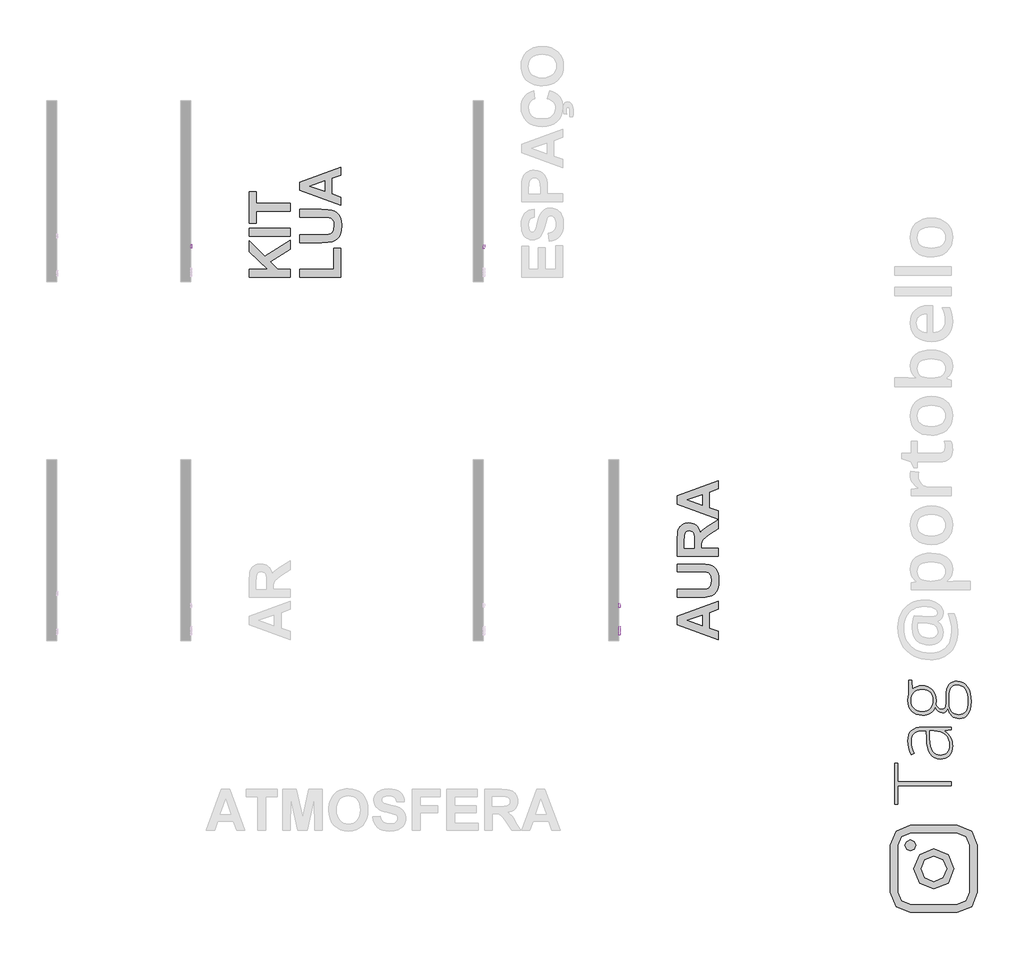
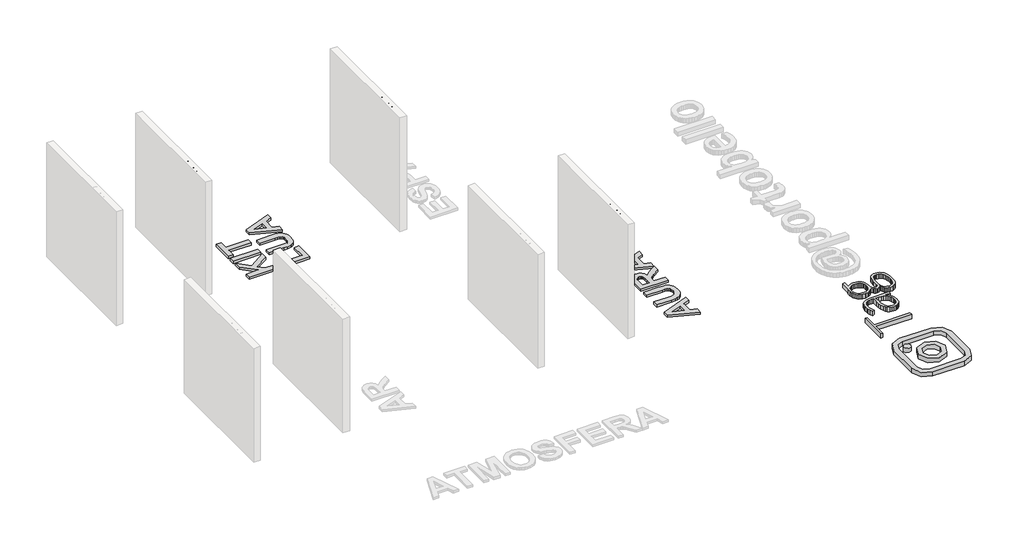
# One storey, part 3 of 9: 8 proxies.
"""IFC4 building model written with IfcOpenShell, lengths in millimetres."""

from ifc_helpers import new_model, si_unit, frame, origin, origin_with_axes, place, context, project, spatial, polyline, outline, extrude, transform, mapped, element, save
from components import generic_models_d67f6705

model = new_model("IFC4")

# Units and contexts
model_context = context("Model", 3, world=origin())
ifc_project = project(units=[si_unit("LENGTHUNIT", "METRE", prefix="MILLI")], contexts=[model_context])

# Site, building, storey
site = spatial("IfcSite", under=ifc_project)
building = spatial("IfcBuilding", under=site)
storey = spatial("IfcBuildingStorey", under=building, Name="PORTOBELLO - SHOWROOM", Elevation=0.0)

# Proxies
placement = place(None, origin())
generic_models_shape = generic_models_d67f6705(model_context)
element("IfcBuildingElementProxy", 1, Name="Blks_Instagram1 : Único 2", ObjectType="Blks_Instagram1 : Único 2", at=placement, inside=storey, context=model_context, shape_type="MappedRepresentation", body=[
    mapped(generic_models_shape, transform((134549.5468687, -13261.2406298, 0.0), x_axis=(-1.0, 0.0, 0.0), y_axis=(0.0, -1.0, 0.0), z_axis=(0.0, 0.0, 1.0))),
])
element("IfcBuildingElementProxy", 2, Name="10mm Arial", ObjectType="10mm Arial", at=placement, inside=storey, context=model_context, shape_type="SweptSolid", body=[
    extrude(outline(polyline([(-9748.5890703, 2548.4925024), (-9775.9840162, 2648.9488126), (-9763.0345699, 2648.9488126), (-9747.1420677, 2582.9262572), (-9742.2369745, 2562.5455946), (-9736.9885247, 2580.5718124), (-9717.073846, 2648.9488126), (-9698.4099661, 2648.9488126), (-9683.939941, 2599.3828451), (-9673.1732612, 2562.5455946), (-9668.4153208, 2582.337646), (-9652.3756658, 2648.9488126), (-9639.4262196, 2648.9488126), (-9666.8456909, 2548.4925024), (-9680.261121, 2548.4925024), (-9704.345129, 2625.9929761), (-9707.7051179, 2636.8087067), (-9711.4820397, 2623.7856841), (-9733.4323321, 2548.4925024), (-9748.5890703, 2548.4925024)])), frame((129846.5708693, 0.0, 0.0), z_axis=(1.0, 0.0, 0.0), x_axis=(0.0, 1.0, 0.0)), (0.0, 0.0, 1.0), 20.0),
    extrude(outline(polyline([(-9628.4388106, 2548.4925024), (-9628.4388106, 2648.9488126), (-9615.8817719, 2648.9488126), (-9615.8817719, 2612.0134603), (-9606.0899794, 2620.8794163), (-9594.0295814, 2623.834735), (-9579.9274382, 2620.6096362), (-9571.3680505, 2611.6946292), (-9568.7928765, 2595.1889903), (-9568.7928765, 2548.4925024), (-9581.3499153, 2548.4925024), (-9581.3499153, 2593.8891406), (-9585.3475663, 2607.1328925), (-9596.6783317, 2611.2776963), (-9606.9667649, 2608.4817931), (-9613.8338954, 2600.903424), (-9615.8817719, 2587.6841976), (-9615.8817719, 2548.4925024), (-9628.4388106, 2548.4925024)])), frame((129846.5708693, 0.0, 0.0), z_axis=(1.0, 0.0, 0.0), x_axis=(0.0, 1.0, 0.0)), (0.0, 0.0, 1.0), 20.0),
    extrude(outline(polyline([(129866.5708693, -9538.9699094), (129866.5708693, -9551.5269482), (129846.5708693, -9551.5269482), (129846.5708693, -9538.9699094), (129866.5708693, -9538.9699094)])), frame((0.0, 0.0, 2636.3917738), z_axis=(0.0, 0.0, 1.0), x_axis=(1.0, 0.0, 0.0)), (0.0, 0.0, 1.0), 12.5570388),
    extrude(outline(polyline([(129866.5708693, -9538.9699094), (129866.5708693, -9551.5269482), (129846.5708693, -9551.5269482), (129846.5708693, -9538.9699094), (129866.5708693, -9538.9699094)])), frame((0.0, 0.0, 2548.4925024), z_axis=(0.0, 0.0, 1.0), x_axis=(1.0, 0.0, 0.0)), (0.0, 0.0, 1.0), 73.7726028),
    extrude(outline(polyline([(-9493.4506439, 2558.9648766), (-9491.881014, 2548.1246204), (-9501.2742676, 2546.9228726), (-9511.7956927, 2549.0075372), (-9517.0441425, 2554.4767162), (-9518.5647214, 2568.7260122), (-9518.5647214, 2609.7080664), (-9527.9825005, 2609.7080664), (-9527.9825005, 2622.2651052), (-9518.5647214, 2622.2651052), (-9518.5647214, 2640.1932211), (-9506.0076826, 2647.5753865), (-9506.0076826, 2622.2651052), (-9493.4506439, 2622.2651052), (-9493.4506439, 2609.7080664), (-9506.0076826, 2609.7080664), (-9506.0076826, 2569.0938942), (-9505.345495, 2562.619171), (-9503.1995167, 2560.3260399), (-9498.9198229, 2559.4799113), (-9493.4506439, 2558.9648766)])), frame((129846.5708693, 0.0, 0.0), z_axis=(1.0, 0.0, 0.0), x_axis=(0.0, 1.0, 0.0)), (0.0, 0.0, 1.0), 20.0),
    extrude(outline(polyline([(-9429.242973, 2570.4673203), (-9416.9311889, 2568.8976904), (-9421.3672326, 2559.6209328), (-9428.4458953, 2552.6863572), (-9438.0077615, 2548.3637437), (-9449.8934156, 2546.9228726), (-9464.6270895, 2549.4091417), (-9475.9639864, 2556.8679492), (-9483.1928676, 2568.814917), (-9485.6024946, 2584.7656671), (-9483.1683421, 2601.2529119), (-9475.8658845, 2613.5830901), (-9464.6822718, 2621.2718238), (-9450.6046542, 2623.834735), (-9436.9654292, 2621.2779552), (-9426.0669251, 2613.6076156), (-9418.9208173, 2601.3019628), (-9416.5387814, 2584.8392435), (-9416.6123578, 2581.4547292), (-9473.0454559, 2581.4547292), (-9470.8718864, 2572.0553442), (-9465.822706, 2565.1452941), (-9458.5355768, 2560.896257), (-9449.648161, 2559.4799113), (-9437.3363769, 2562.1041362), (-9429.242973, 2570.4673203)]), holes=[polyline([(-9473.0454559, 2594.011768), (-9429.0958202, 2594.011768), (-9434.1235408, 2605.3915843), (-9441.4443925, 2609.8061683), (-9450.6537051, 2611.2776963), (-9466.1170116, 2606.5810695), (-9470.982251, 2601.0904307), (-9473.0454559, 2594.011768)])]), frame((129846.5708693, 0.0, 0.0), z_axis=(1.0, 0.0, 0.0), x_axis=(0.0, 1.0, 0.0)), (0.0, 0.0, 1.0), 20.0),
])
element("IfcBuildingElementProxy", 3, Name="10mm Arial Narrow", ObjectType="10mm Arial Narrow", at=placement, inside=storey, context=model_context, shape_type="SweptSolid", body=[
    extrude(outline(polyline([(-9364.431178, 2548.4925024), (-9364.431178, 2649.2111062), (-9333.1342933, 2649.2111062), (-9316.8385918, 2647.3327854), (-9305.3656057, 2637.8523423), (-9301.0759272, 2620.8332334), (-9302.8622356, 2608.7574079), (-9308.2211608, 2599.1310141), (-9317.9649496, 2592.8297557), (-9332.9058489, 2590.7293363), (-9354.6842163, 2590.7293363), (-9354.6842163, 2548.4925024), (-9364.431178, 2548.4925024)]), holes=[polyline([(-9354.6842163, 2602.1007915), (-9331.7128614, 2602.1007915), (-9315.848666, 2606.6316057), (-9310.8228889, 2620.3001965), (-9313.2977034, 2630.4659729), (-9319.2753322, 2636.2659227), (-9331.9413058, 2637.8396509), (-9354.6842163, 2637.8396509), (-9354.6842163, 2602.1007915)])]), frame((129846.5708693, 0.0, 0.0), z_axis=(1.0, 0.0, 0.0), x_axis=(0.0, 1.0, 0.0)), (0.0, 0.0, 1.0), 20.0),
    extrude(outline(polyline([(-9292.9534592, 2585.0436086), (-9290.9989903, 2601.6343842), (-9285.1355837, 2613.586469), (-9276.277017, 2620.8110236), (-9265.3370678, 2623.2192084), (-9254.5240322, 2620.8110236), (-9245.6400828, 2613.586469), (-9239.7005281, 2601.8247545), (-9237.7206765, 2585.80509), (-9239.6656268, 2568.6432034), (-9245.5004779, 2556.5007483), (-9254.3495261, 2549.2761937), (-9265.3370678, 2546.8680088), (-9276.197696, 2549.2825394), (-9285.0721269, 2556.526131), (-9290.9831261, 2568.4845615), (-9292.9534592, 2585.0436086)]), holes=[polyline([(-9283.2064975, 2585.0689913), (-9281.9024607, 2572.5172399), (-9277.9903501, 2563.6459819), (-9272.1491533, 2558.3727233), (-9265.057858, 2556.6149705), (-9258.3377848, 2558.3885875), (-9252.6457115, 2563.7094386), (-9248.7621565, 2572.5965609), (-9247.4676381, 2585.0689913), (-9248.771675, 2597.5826687), (-9252.6837856, 2606.4412354), (-9258.5249823, 2611.7144939), (-9265.6162777, 2613.4722468), (-9272.3839434, 2611.7049754), (-9278.0664982, 2606.4031613), (-9281.9214977, 2597.5350761), (-9283.2064975, 2585.0689913)])]), frame((129846.5708693, 0.0, 0.0), z_axis=(1.0, 0.0, 0.0), x_axis=(0.0, 1.0, 0.0)), (0.0, 0.0, 1.0), 20.0),
    extrude(outline(polyline([(-9166.2429577, 2556.6149705), (-9164.6184641, 2546.8680088), (-9171.9794507, 2546.8680088), (-9180.2542151, 2548.9874653), (-9184.5692762, 2554.7874152), (-9185.736881, 2569.4332403), (-9185.736881, 2611.8477532), (-9193.859349, 2611.8477532), (-9193.859349, 2615.0967404), (-9195.4838426, 2610.2232596), (-9203.047891, 2611.8477532), (-9209.1270507, 2609.525235), (-9212.9979144, 2603.0399519), (-9214.9777659, 2587.6326453), (-9214.9777659, 2548.4925024), (-9224.7247276, 2548.4925024), (-9224.7247276, 2621.5947148), (-9214.9777659, 2621.5947148), (-9214.9777659, 2611.8985186), (-9208.7336186, 2620.9855297), (-9202.3371751, 2623.2192084), (-9193.859349, 2621.5947148), (-9185.736881, 2621.5947148), (-9185.736881, 2637.8396509), (-9175.9899193, 2645.962119), (-9175.9899193, 2621.5947148), (-9166.2429577, 2621.5947148), (-9166.2429577, 2611.8477532), (-9175.9899193, 2611.8477532), (-9175.9899193, 2567.1995616), (-9175.1269071, 2559.2040072), (-9170.5072534, 2556.6149705), (-9166.2429577, 2556.6149705)])), frame((129846.5708693, 0.0, 0.0), z_axis=(1.0, 0.0, 0.0), x_axis=(0.0, 1.0, 0.0)), (0.0, 0.0, 1.0), 20.0),
    extrude(outline(polyline([(-9159.7449832, 2585.0436086), (-9157.7905144, 2601.6343842), (-9151.9271078, 2613.586469), (-9143.068541, 2620.8110236), (-9132.1285919, 2623.2192084), (-9121.3155563, 2620.8110236), (-9112.4316069, 2613.586469), (-9106.4920521, 2601.8247545), (-9104.5122005, 2585.80509), (-9106.4571509, 2568.6432034), (-9112.292002, 2556.5007483), (-9121.1410502, 2549.2761937), (-9132.1285919, 2546.8680088), (-9142.9892201, 2549.2825394), (-9151.863651, 2556.526131), (-9157.7746502, 2568.4845615), (-9159.7449832, 2585.0436086)]), holes=[polyline([(-9149.9980216, 2585.0689913), (-9148.6939847, 2572.5172399), (-9144.7818741, 2563.6459819), (-9138.9406774, 2558.3727233), (-9131.8493821, 2556.6149705), (-9125.1293089, 2558.3885875), (-9119.4372356, 2563.7094386), (-9115.5536805, 2572.5965609), (-9114.2591622, 2585.0689913), (-9115.5631991, 2597.5826687), (-9119.4753096, 2606.4412354), (-9125.3165064, 2611.7144939), (-9132.4078017, 2613.4722468), (-9139.1754675, 2611.7049754), (-9144.8580223, 2606.4031613), (-9148.7130218, 2597.5350761), (-9149.9980216, 2585.0689913)])]), frame((129846.5708693, 0.0, 0.0), z_axis=(1.0, 0.0, 0.0), x_axis=(0.0, 1.0, 0.0)), (0.0, 0.0, 1.0), 20.0),
    extrude(outline(polyline([(-9081.76929, 2548.4925024), (-9091.5162517, 2548.4925024), (-9091.5162517, 2649.2111062), (-9081.76929, 2649.2111062), (-9081.76929, 2613.802222), (-9074.3702293, 2620.8839989), (-9065.168996, 2623.2192084), (-9052.2872693, 2619.0183695), (-9043.0098878, 2606.2889391), (-9039.5324562, 2585.6020283), (-9041.4647152, 2569.1476848), (-9047.2614922, 2556.9449457), (-9055.6346145, 2549.387243), (-9065.2959095, 2546.8680088), (-9074.6367478, 2549.4824282), (-9081.76929, 2557.2495383), (-9081.76929, 2548.4925024)]), holes=[polyline([(-9081.76929, 2585.6020283), (-9079.6879076, 2568.3544751), (-9073.7991182, 2559.6228219), (-9065.3466749, 2556.6149705), (-9059.4039473, 2558.4044517), (-9054.16559, 2563.7728954), (-9049.2794178, 2585.1959049), (-9053.987911, 2606.6316057), (-9059.232614, 2611.7620865), (-9065.5497366, 2613.4722468), (-9071.5273655, 2611.6827655), (-9076.8196611, 2606.3143218), (-9081.76929, 2585.6020283)])]), frame((129846.5708693, 0.0, 0.0), z_axis=(1.0, 0.0, 0.0), x_axis=(0.0, 1.0, 0.0)), (0.0, 0.0, 1.0), 20.0),
    extrude(outline(polyline([(-8987.5486607, 2571.2354129), (-8977.801699, 2569.6109193), (-8981.5012294, 2559.7243528), (-8987.3202163, 2552.6045019), (-8995.0238696, 2548.3021321), (-9004.3773992, 2546.8680088), (-9015.9709532, 2549.2825394), (-9025.1150754, 2556.526131), (-9031.0546302, 2568.3322652), (-9033.0344818, 2584.4344235), (-9031.0451116, 2601.1013472), (-9025.0770013, 2613.2818764), (-9016.0629655, 2620.7348754), (-9004.9358189, 2623.2192084), (-8994.2528697, 2620.8205421), (-8985.5053523, 2613.6245431), (-8979.6705013, 2601.8850385), (-8977.7255509, 2585.8558554), (-8977.801699, 2582.6068682), (-9023.2875201, 2582.6068682), (-9017.2845086, 2563.1637103), (-9011.3544723, 2558.2521554), (-9004.2504856, 2556.6149705), (-8994.0720178, 2560.2700811), (-8987.5486607, 2571.2354129)]), holes=[polyline([(-9022.6275696, 2592.3538299), (-8987.5486607, 2592.3538299), (-8991.8129564, 2606.6189144), (-8997.638289, 2611.7589137), (-9004.8596707, 2613.4722468), (-9017.0687555, 2607.7611364), (-9022.6275696, 2592.3538299)])]), frame((129846.5708693, 0.0, 0.0), z_axis=(1.0, 0.0, 0.0), x_axis=(0.0, 1.0, 0.0)), (0.0, 0.0, 1.0), 20.0),
    extrude(outline(polyline([(129866.5708693, -8955.0587885), (129866.5708693, -8964.8057502), (129846.5708693, -8964.8057502), (129846.5708693, -8955.0587885), (129866.5708693, -8955.0587885)])), frame((0.0, 0.0, 2548.4925024), z_axis=(0.0, 0.0, 1.0), x_axis=(1.0, 0.0, 0.0)), (0.0, 0.0, 1.0), 100.7186038),
    extrude(outline(polyline([(129866.5708693, -8929.0668908), (129866.5708693, -8938.8138524), (129846.5708693, -8938.8138524), (129846.5708693, -8929.0668908), (129866.5708693, -8929.0668908)])), frame((0.0, 0.0, 2548.4925024), z_axis=(0.0, 0.0, 1.0), x_axis=(1.0, 0.0, 0.0)), (0.0, 0.0, 1.0), 100.7186038),
    extrude(outline(polyline([(-8917.6954355, 2585.0436086), (-8915.7409666, 2601.6343842), (-8909.87756, 2613.586469), (-8901.0189933, 2620.8110236), (-8890.0790442, 2623.2192084), (-8879.2660086, 2620.8110236), (-8870.3820592, 2613.586469), (-8864.4425044, 2601.8247545), (-8862.4626528, 2585.80509), (-8864.4076032, 2568.6432034), (-8870.2424542, 2556.5007483), (-8879.0915024, 2549.2761937), (-8890.0790442, 2546.8680088), (-8900.9396723, 2549.2825394), (-8909.8141032, 2556.526131), (-8915.7251024, 2568.4845615), (-8917.6954355, 2585.0436086)]), holes=[polyline([(-8907.9484739, 2585.0689913), (-8906.644437, 2572.5172399), (-8902.7323264, 2563.6459819), (-8896.8911297, 2558.3727233), (-8889.7998343, 2556.6149705), (-8883.0797612, 2558.3885875), (-8877.3876878, 2563.7094386), (-8873.5041328, 2572.5965609), (-8872.2096145, 2585.0689913), (-8873.5136513, 2597.5826687), (-8877.4257619, 2606.4412354), (-8883.2669587, 2611.7144939), (-8890.358254, 2613.4722468), (-8897.1259198, 2611.7049754), (-8902.8084746, 2606.4031613), (-8906.663474, 2597.5350761), (-8907.9484739, 2585.0689913)])]), frame((129846.5708693, 0.0, 0.0), z_axis=(1.0, 0.0, 0.0), x_axis=(0.0, 1.0, 0.0)), (0.0, 0.0, 1.0), 20.0),
])
element("IfcBuildingElementProxy", 4, Name="10mm Arial Narrow", ObjectType="10mm Arial Narrow", at=placement, inside=storey, context=model_context, shape_type="SweptSolid", body=[
    extrude(outline(polyline([(-4009.431178, 2548.4925024), (-4009.431178, 2649.2111062), (-3978.1342933, 2649.2111062), (-3961.8385918, 2647.3327854), (-3950.3656057, 2637.8523423), (-3946.0759272, 2620.8332334), (-3947.8622356, 2608.7574079), (-3953.2211608, 2599.1310141), (-3962.9649496, 2592.8297557), (-3977.9058489, 2590.7293363), (-3999.6842163, 2590.7293363), (-3999.6842163, 2548.4925024), (-4009.431178, 2548.4925024)]), holes=[polyline([(-3999.6842163, 2602.1007915), (-3976.7128614, 2602.1007915), (-3960.848666, 2606.6316057), (-3955.8228889, 2620.3001965), (-3958.2977034, 2630.4659729), (-3964.2753322, 2636.2659227), (-3976.9413058, 2637.8396509), (-3999.6842163, 2637.8396509), (-3999.6842163, 2602.1007915)])]), frame((127826.5708693, 0.0, 0.0), z_axis=(1.0, 0.0, 0.0), x_axis=(0.0, 1.0, 0.0)), (0.0, 0.0, 1.0), 20.0),
    extrude(outline(polyline([(-3937.9534592, 2585.0436086), (-3935.9989903, 2601.6343842), (-3930.1355837, 2613.586469), (-3921.277017, 2620.8110236), (-3910.3370678, 2623.2192084), (-3899.5240322, 2620.8110236), (-3890.6400828, 2613.586469), (-3884.7005281, 2601.8247545), (-3882.7206765, 2585.80509), (-3884.6656268, 2568.6432034), (-3890.5004779, 2556.5007483), (-3899.3495261, 2549.2761937), (-3910.3370678, 2546.8680088), (-3921.197696, 2549.2825394), (-3930.0721269, 2556.526131), (-3935.9831261, 2568.4845615), (-3937.9534592, 2585.0436086)]), holes=[polyline([(-3928.2064975, 2585.0689913), (-3926.9024607, 2572.5172399), (-3922.9903501, 2563.6459819), (-3917.1491533, 2558.3727233), (-3910.057858, 2556.6149705), (-3903.3377848, 2558.3885875), (-3897.6457115, 2563.7094386), (-3893.7621565, 2572.5965609), (-3892.4676381, 2585.0689913), (-3893.771675, 2597.5826687), (-3897.6837856, 2606.4412354), (-3903.5249823, 2611.7144939), (-3910.6162777, 2613.4722468), (-3917.3839434, 2611.7049754), (-3923.0664982, 2606.4031613), (-3926.9214977, 2597.5350761), (-3928.2064975, 2585.0689913)])]), frame((127826.5708693, 0.0, 0.0), z_axis=(1.0, 0.0, 0.0), x_axis=(0.0, 1.0, 0.0)), (0.0, 0.0, 1.0), 20.0),
    extrude(outline(polyline([(-3811.2429577, 2556.6149705), (-3809.6184641, 2546.8680088), (-3816.9794507, 2546.8680088), (-3825.2542151, 2548.9874653), (-3829.5692762, 2554.7874152), (-3830.736881, 2569.4332403), (-3830.736881, 2611.8477532), (-3838.859349, 2611.8477532), (-3838.859349, 2615.0967404), (-3840.4838426, 2610.2232596), (-3848.047891, 2611.8477532), (-3854.1270507, 2609.525235), (-3857.9979144, 2603.0399519), (-3859.9777659, 2587.6326453), (-3859.9777659, 2548.4925024), (-3869.7247276, 2548.4925024), (-3869.7247276, 2621.5947148), (-3859.9777659, 2621.5947148), (-3859.9777659, 2611.8985186), (-3853.7336186, 2620.9855297), (-3847.3371751, 2623.2192084), (-3838.859349, 2621.5947148), (-3830.736881, 2621.5947148), (-3830.736881, 2637.8396509), (-3820.9899193, 2645.962119), (-3820.9899193, 2621.5947148), (-3811.2429577, 2621.5947148), (-3811.2429577, 2611.8477532), (-3820.9899193, 2611.8477532), (-3820.9899193, 2567.1995616), (-3820.1269071, 2559.2040072), (-3815.5072534, 2556.6149705), (-3811.2429577, 2556.6149705)])), frame((127826.5708693, 0.0, 0.0), z_axis=(1.0, 0.0, 0.0), x_axis=(0.0, 1.0, 0.0)), (0.0, 0.0, 1.0), 20.0),
    extrude(outline(polyline([(-3804.7449832, 2585.0436086), (-3802.7905144, 2601.6343842), (-3796.9271078, 2613.586469), (-3788.068541, 2620.8110236), (-3777.1285919, 2623.2192084), (-3766.3155563, 2620.8110236), (-3757.4316069, 2613.586469), (-3751.4920521, 2601.8247545), (-3749.5122005, 2585.80509), (-3751.4571509, 2568.6432034), (-3757.292002, 2556.5007483), (-3766.1410502, 2549.2761937), (-3777.1285919, 2546.8680088), (-3787.9892201, 2549.2825394), (-3796.863651, 2556.526131), (-3802.7746502, 2568.4845615), (-3804.7449832, 2585.0436086)]), holes=[polyline([(-3794.9980216, 2585.0689913), (-3793.6939847, 2572.5172399), (-3789.7818741, 2563.6459819), (-3783.9406774, 2558.3727233), (-3776.8493821, 2556.6149705), (-3770.1293089, 2558.3885875), (-3764.4372356, 2563.7094386), (-3760.5536805, 2572.5965609), (-3759.2591622, 2585.0689913), (-3760.5631991, 2597.5826687), (-3764.4753096, 2606.4412354), (-3770.3165064, 2611.7144939), (-3777.4078017, 2613.4722468), (-3784.1754675, 2611.7049754), (-3789.8580223, 2606.4031613), (-3793.7130218, 2597.5350761), (-3794.9980216, 2585.0689913)])]), frame((127826.5708693, 0.0, 0.0), z_axis=(1.0, 0.0, 0.0), x_axis=(0.0, 1.0, 0.0)), (0.0, 0.0, 1.0), 20.0),
    extrude(outline(polyline([(-3726.76929, 2548.4925024), (-3736.5162517, 2548.4925024), (-3736.5162517, 2649.2111062), (-3726.76929, 2649.2111062), (-3726.76929, 2613.802222), (-3719.3702293, 2620.8839989), (-3710.168996, 2623.2192084), (-3697.2872693, 2619.0183695), (-3688.0098878, 2606.2889391), (-3684.5324562, 2585.6020283), (-3686.4647152, 2569.1476848), (-3692.2614922, 2556.9449457), (-3700.6346145, 2549.387243), (-3710.2959095, 2546.8680088), (-3719.6367478, 2549.4824282), (-3726.76929, 2557.2495383), (-3726.76929, 2548.4925024)]), holes=[polyline([(-3726.76929, 2585.6020283), (-3724.6879076, 2568.3544751), (-3718.7991182, 2559.6228219), (-3710.3466749, 2556.6149705), (-3704.4039473, 2558.4044517), (-3699.16559, 2563.7728954), (-3694.2794178, 2585.1959049), (-3698.987911, 2606.6316057), (-3704.232614, 2611.7620865), (-3710.5497366, 2613.4722468), (-3716.5273655, 2611.6827655), (-3721.8196611, 2606.3143218), (-3726.76929, 2585.6020283)])]), frame((127826.5708693, 0.0, 0.0), z_axis=(1.0, 0.0, 0.0), x_axis=(0.0, 1.0, 0.0)), (0.0, 0.0, 1.0), 20.0),
    extrude(outline(polyline([(-3632.5486607, 2571.2354129), (-3622.801699, 2569.6109193), (-3626.5012294, 2559.7243528), (-3632.3202163, 2552.6045019), (-3640.0238696, 2548.3021321), (-3649.3773992, 2546.8680088), (-3660.9709532, 2549.2825394), (-3670.1150754, 2556.526131), (-3676.0546302, 2568.3322652), (-3678.0344818, 2584.4344235), (-3676.0451116, 2601.1013472), (-3670.0770013, 2613.2818764), (-3661.0629655, 2620.7348754), (-3649.9358189, 2623.2192084), (-3639.2528697, 2620.8205421), (-3630.5053523, 2613.6245431), (-3624.6705013, 2601.8850385), (-3622.7255509, 2585.8558554), (-3622.801699, 2582.6068682), (-3668.2875201, 2582.6068682), (-3662.2845086, 2563.1637103), (-3656.3544723, 2558.2521554), (-3649.2504856, 2556.6149705), (-3639.0720178, 2560.2700811), (-3632.5486607, 2571.2354129)]), holes=[polyline([(-3667.6275696, 2592.3538299), (-3632.5486607, 2592.3538299), (-3636.8129564, 2606.6189144), (-3642.638289, 2611.7589137), (-3649.8596707, 2613.4722468), (-3662.0687555, 2607.7611364), (-3667.6275696, 2592.3538299)])]), frame((127826.5708693, 0.0, 0.0), z_axis=(1.0, 0.0, 0.0), x_axis=(0.0, 1.0, 0.0)), (0.0, 0.0, 1.0), 20.0),
    extrude(outline(polyline([(127846.5708693, -3600.0587885), (127846.5708693, -3609.8057502), (127826.5708693, -3609.8057502), (127826.5708693, -3600.0587885), (127846.5708693, -3600.0587885)])), frame((0.0, 0.0, 2548.4925024), z_axis=(0.0, 0.0, 1.0), x_axis=(1.0, 0.0, 0.0)), (0.0, 0.0, 1.0), 100.7186038),
    extrude(outline(polyline([(127846.5708693, -3574.0668908), (127846.5708693, -3583.8138524), (127826.5708693, -3583.8138524), (127826.5708693, -3574.0668908), (127846.5708693, -3574.0668908)])), frame((0.0, 0.0, 2548.4925024), z_axis=(0.0, 0.0, 1.0), x_axis=(1.0, 0.0, 0.0)), (0.0, 0.0, 1.0), 100.7186038),
    extrude(outline(polyline([(-3562.6954355, 2585.0436086), (-3560.7409666, 2601.6343842), (-3554.87756, 2613.586469), (-3546.0189933, 2620.8110236), (-3535.0790442, 2623.2192084), (-3524.2660086, 2620.8110236), (-3515.3820592, 2613.586469), (-3509.4425044, 2601.8247545), (-3507.4626528, 2585.80509), (-3509.4076032, 2568.6432034), (-3515.2424542, 2556.5007483), (-3524.0915024, 2549.2761937), (-3535.0790442, 2546.8680088), (-3545.9396723, 2549.2825394), (-3554.8141032, 2556.526131), (-3560.7251024, 2568.4845615), (-3562.6954355, 2585.0436086)]), holes=[polyline([(-3552.9484739, 2585.0689913), (-3551.644437, 2572.5172399), (-3547.7323264, 2563.6459819), (-3541.8911297, 2558.3727233), (-3534.7998343, 2556.6149705), (-3528.0797612, 2558.3885875), (-3522.3876878, 2563.7094386), (-3518.5041328, 2572.5965609), (-3517.2096145, 2585.0689913), (-3518.5136513, 2597.5826687), (-3522.4257619, 2606.4412354), (-3528.2669587, 2611.7144939), (-3535.358254, 2613.4722468), (-3542.1259198, 2611.7049754), (-3547.8084746, 2606.4031613), (-3551.663474, 2597.5350761), (-3552.9484739, 2585.0689913)])]), frame((127826.5708693, 0.0, 0.0), z_axis=(1.0, 0.0, 0.0), x_axis=(0.0, 1.0, 0.0)), (0.0, 0.0, 1.0), 20.0),
])
element("IfcBuildingElementProxy", 5, Name="10mm Arial Narrow", ObjectType="10mm Arial Narrow", at=placement, inside=storey, context=model_context, shape_type="SweptSolid", body=[
    extrude(outline(polyline([(-4004.431178, 2548.4925024), (-4004.431178, 2649.2111062), (-3973.1342933, 2649.2111062), (-3956.8385918, 2647.3327854), (-3945.3656057, 2637.8523423), (-3941.0759272, 2620.8332334), (-3942.8622356, 2608.7574079), (-3948.2211608, 2599.1310141), (-3957.9649496, 2592.8297557), (-3972.9058489, 2590.7293363), (-3994.6842163, 2590.7293363), (-3994.6842163, 2548.4925024), (-4004.431178, 2548.4925024)]), holes=[polyline([(-3994.6842163, 2602.1007915), (-3971.7128614, 2602.1007915), (-3955.848666, 2606.6316057), (-3950.8228889, 2620.3001965), (-3953.2977034, 2630.4659729), (-3959.2753322, 2636.2659227), (-3971.9413058, 2637.8396509), (-3994.6842163, 2637.8396509), (-3994.6842163, 2602.1007915)])]), frame((123459.5859035, 0.0, 0.0), z_axis=(1.0, 0.0, 0.0), x_axis=(0.0, 1.0, 0.0)), (0.0, 0.0, 1.0), 20.0),
    extrude(outline(polyline([(-3932.9534592, 2585.0436086), (-3930.9989903, 2601.6343842), (-3925.1355837, 2613.586469), (-3916.277017, 2620.8110236), (-3905.3370678, 2623.2192084), (-3894.5240322, 2620.8110236), (-3885.6400828, 2613.586469), (-3879.7005281, 2601.8247545), (-3877.7206765, 2585.80509), (-3879.6656268, 2568.6432034), (-3885.5004779, 2556.5007483), (-3894.3495261, 2549.2761937), (-3905.3370678, 2546.8680088), (-3916.197696, 2549.2825394), (-3925.0721269, 2556.526131), (-3930.9831261, 2568.4845615), (-3932.9534592, 2585.0436086)]), holes=[polyline([(-3923.2064975, 2585.0689913), (-3921.9024607, 2572.5172399), (-3917.9903501, 2563.6459819), (-3912.1491533, 2558.3727233), (-3905.057858, 2556.6149705), (-3898.3377848, 2558.3885875), (-3892.6457115, 2563.7094386), (-3888.7621565, 2572.5965609), (-3887.4676381, 2585.0689913), (-3888.771675, 2597.5826687), (-3892.6837856, 2606.4412354), (-3898.5249823, 2611.7144939), (-3905.6162777, 2613.4722468), (-3912.3839434, 2611.7049754), (-3918.0664982, 2606.4031613), (-3921.9214977, 2597.5350761), (-3923.2064975, 2585.0689913)])]), frame((123459.5859035, 0.0, 0.0), z_axis=(1.0, 0.0, 0.0), x_axis=(0.0, 1.0, 0.0)), (0.0, 0.0, 1.0), 20.0),
    extrude(outline(polyline([(-3806.2429577, 2556.6149705), (-3804.6184641, 2546.8680088), (-3811.9794507, 2546.8680088), (-3820.2542151, 2548.9874653), (-3824.5692762, 2554.7874152), (-3825.736881, 2569.4332403), (-3825.736881, 2611.8477532), (-3833.859349, 2611.8477532), (-3833.859349, 2615.0967404), (-3835.4838426, 2610.2232596), (-3843.047891, 2611.8477532), (-3849.1270507, 2609.525235), (-3852.9979144, 2603.0399519), (-3854.9777659, 2587.6326453), (-3854.9777659, 2548.4925024), (-3864.7247276, 2548.4925024), (-3864.7247276, 2621.5947148), (-3854.9777659, 2621.5947148), (-3854.9777659, 2611.8985186), (-3848.7336186, 2620.9855297), (-3842.3371751, 2623.2192084), (-3833.859349, 2621.5947148), (-3825.736881, 2621.5947148), (-3825.736881, 2637.8396509), (-3815.9899193, 2645.962119), (-3815.9899193, 2621.5947148), (-3806.2429577, 2621.5947148), (-3806.2429577, 2611.8477532), (-3815.9899193, 2611.8477532), (-3815.9899193, 2567.1995616), (-3815.1269071, 2559.2040072), (-3810.5072534, 2556.6149705), (-3806.2429577, 2556.6149705)])), frame((123459.5859035, 0.0, 0.0), z_axis=(1.0, 0.0, 0.0), x_axis=(0.0, 1.0, 0.0)), (0.0, 0.0, 1.0), 20.0),
    extrude(outline(polyline([(-3799.7449832, 2585.0436086), (-3797.7905144, 2601.6343842), (-3791.9271078, 2613.586469), (-3783.068541, 2620.8110236), (-3772.1285919, 2623.2192084), (-3761.3155563, 2620.8110236), (-3752.4316069, 2613.586469), (-3746.4920521, 2601.8247545), (-3744.5122005, 2585.80509), (-3746.4571509, 2568.6432034), (-3752.292002, 2556.5007483), (-3761.1410502, 2549.2761937), (-3772.1285919, 2546.8680088), (-3782.9892201, 2549.2825394), (-3791.863651, 2556.526131), (-3797.7746502, 2568.4845615), (-3799.7449832, 2585.0436086)]), holes=[polyline([(-3789.9980216, 2585.0689913), (-3788.6939847, 2572.5172399), (-3784.7818741, 2563.6459819), (-3778.9406774, 2558.3727233), (-3771.8493821, 2556.6149705), (-3765.1293089, 2558.3885875), (-3759.4372356, 2563.7094386), (-3755.5536805, 2572.5965609), (-3754.2591622, 2585.0689913), (-3755.5631991, 2597.5826687), (-3759.4753096, 2606.4412354), (-3765.3165064, 2611.7144939), (-3772.4078017, 2613.4722468), (-3779.1754675, 2611.7049754), (-3784.8580223, 2606.4031613), (-3788.7130218, 2597.5350761), (-3789.9980216, 2585.0689913)])]), frame((123459.5859035, 0.0, 0.0), z_axis=(1.0, 0.0, 0.0), x_axis=(0.0, 1.0, 0.0)), (0.0, 0.0, 1.0), 20.0),
    extrude(outline(polyline([(-3721.76929, 2548.4925024), (-3731.5162517, 2548.4925024), (-3731.5162517, 2649.2111062), (-3721.76929, 2649.2111062), (-3721.76929, 2613.802222), (-3714.3702293, 2620.8839989), (-3705.168996, 2623.2192084), (-3692.2872693, 2619.0183695), (-3683.0098878, 2606.2889391), (-3679.5324562, 2585.6020283), (-3681.4647152, 2569.1476848), (-3687.2614922, 2556.9449457), (-3695.6346145, 2549.387243), (-3705.2959095, 2546.8680088), (-3714.6367478, 2549.4824282), (-3721.76929, 2557.2495383), (-3721.76929, 2548.4925024)]), holes=[polyline([(-3721.76929, 2585.6020283), (-3719.6879076, 2568.3544751), (-3713.7991182, 2559.6228219), (-3705.3466749, 2556.6149705), (-3699.4039473, 2558.4044517), (-3694.16559, 2563.7728954), (-3689.2794178, 2585.1959049), (-3693.987911, 2606.6316057), (-3699.232614, 2611.7620865), (-3705.5497366, 2613.4722468), (-3711.5273655, 2611.6827655), (-3716.8196611, 2606.3143218), (-3721.76929, 2585.6020283)])]), frame((123459.5859035, 0.0, 0.0), z_axis=(1.0, 0.0, 0.0), x_axis=(0.0, 1.0, 0.0)), (0.0, 0.0, 1.0), 20.0),
    extrude(outline(polyline([(-3627.5486607, 2571.2354129), (-3617.801699, 2569.6109193), (-3621.5012294, 2559.7243528), (-3627.3202163, 2552.6045019), (-3635.0238696, 2548.3021321), (-3644.3773992, 2546.8680088), (-3655.9709532, 2549.2825394), (-3665.1150754, 2556.526131), (-3671.0546302, 2568.3322652), (-3673.0344818, 2584.4344235), (-3671.0451116, 2601.1013472), (-3665.0770013, 2613.2818764), (-3656.0629655, 2620.7348754), (-3644.9358189, 2623.2192084), (-3634.2528697, 2620.8205421), (-3625.5053523, 2613.6245431), (-3619.6705013, 2601.8850385), (-3617.7255509, 2585.8558554), (-3617.801699, 2582.6068682), (-3663.2875201, 2582.6068682), (-3657.2845086, 2563.1637103), (-3651.3544723, 2558.2521554), (-3644.2504856, 2556.6149705), (-3634.0720178, 2560.2700811), (-3627.5486607, 2571.2354129)]), holes=[polyline([(-3662.6275696, 2592.3538299), (-3627.5486607, 2592.3538299), (-3631.8129564, 2606.6189144), (-3637.638289, 2611.7589137), (-3644.8596707, 2613.4722468), (-3657.0687555, 2607.7611364), (-3662.6275696, 2592.3538299)])]), frame((123459.5859035, 0.0, 0.0), z_axis=(1.0, 0.0, 0.0), x_axis=(0.0, 1.0, 0.0)), (0.0, 0.0, 1.0), 20.0),
    extrude(outline(polyline([(123479.5859035, -3595.0587885), (123479.5859035, -3604.8057502), (123459.5859035, -3604.8057502), (123459.5859035, -3595.0587885), (123479.5859035, -3595.0587885)])), frame((0.0, 0.0, 2548.4925024), z_axis=(0.0, 0.0, 1.0), x_axis=(1.0, 0.0, 0.0)), (0.0, 0.0, 1.0), 100.7186038),
    extrude(outline(polyline([(123479.5859035, -3569.0668908), (123479.5859035, -3578.8138524), (123459.5859035, -3578.8138524), (123459.5859035, -3569.0668908), (123479.5859035, -3569.0668908)])), frame((0.0, 0.0, 2548.4925024), z_axis=(0.0, 0.0, 1.0), x_axis=(1.0, 0.0, 0.0)), (0.0, 0.0, 1.0), 100.7186038),
    extrude(outline(polyline([(-3557.6954355, 2585.0436086), (-3555.7409666, 2601.6343842), (-3549.87756, 2613.586469), (-3541.0189933, 2620.8110236), (-3530.0790442, 2623.2192084), (-3519.2660086, 2620.8110236), (-3510.3820592, 2613.586469), (-3504.4425044, 2601.8247545), (-3502.4626528, 2585.80509), (-3504.4076032, 2568.6432034), (-3510.2424542, 2556.5007483), (-3519.0915024, 2549.2761937), (-3530.0790442, 2546.8680088), (-3540.9396723, 2549.2825394), (-3549.8141032, 2556.526131), (-3555.7251024, 2568.4845615), (-3557.6954355, 2585.0436086)]), holes=[polyline([(-3547.9484739, 2585.0689913), (-3546.644437, 2572.5172399), (-3542.7323264, 2563.6459819), (-3536.8911297, 2558.3727233), (-3529.7998343, 2556.6149705), (-3523.0797612, 2558.3885875), (-3517.3876878, 2563.7094386), (-3513.5041328, 2572.5965609), (-3512.2096145, 2585.0689913), (-3513.5136513, 2597.5826687), (-3517.4257619, 2606.4412354), (-3523.2669587, 2611.7144939), (-3530.358254, 2613.4722468), (-3537.1259198, 2611.7049754), (-3542.8084746, 2606.4031613), (-3546.663474, 2597.5350761), (-3547.9484739, 2585.0689913)])]), frame((123459.5859035, 0.0, 0.0), z_axis=(1.0, 0.0, 0.0), x_axis=(0.0, 1.0, 0.0)), (0.0, 0.0, 1.0), 20.0),
])
element("IfcBuildingElementProxy", 6, Name="600mm Arial", ObjectType="600mm Arial", at=placement, inside=storey, context=model_context, shape_type="SweptSolid", body=[
    extrude(outline(polyline([(131332.9424461, -9266.5979954), (131332.9424461, -9389.1202179), (131196.9078595, -9437.0967016), (131196.9078595, -9668.3251341), (131332.9424461, -9715.6943205), (131332.9424461, -9839.8866106), (130720.7868062, -9616.4012182), (130720.7868062, -9492.2089281), (131332.9424461, -9266.5979954)]), holes=[polyline([(131090.0235414, -9474.4454832), (130866.538149, -9553.242303), (131090.0235414, -9630.9763525), (131090.0235414, -9474.4454832)])]), origin_with_axes(), (0.0, 0.0, 1.0), 50.0),
    extrude(outline(polyline([(130720.7868062, -9208.2974582), (130720.7868062, -9091.6963839), (131051.0046923, -9091.6963839), (131115.833675, -9090.4438333), (131153.0306323, -9086.6861815), (131170.7893327, -9080.8694124), (131186.7166523, -9072.0730912), (131200.8125911, -9060.2972177), (131213.0771491, -9045.541792), (131223.0074082, -9027.8068142), (131230.1004504, -9007.0922841), (131235.7748842, -8956.7245675), (131230.4230771, -8906.4137849), (131223.7333182, -8886.5675002), (131214.3676558, -8870.2606198), (131190.5122602, -8846.9745654), (131161.7605304, -8835.2651151), (131120.2555582, -8830.8242539), (131058.1404351, -8829.3439668), (130720.7868062, -8829.3439668), (130720.7868062, -8712.7428925), (131041.8952334, -8712.7428925), (131135.9124407, -8715.2859498), (131197.5151567, -8722.9151217), (131239.3996898, -8737.3763877), (131274.2623482, -8760.4157276), (131302.4067807, -8792.3557679), (131324.1366358, -8833.5191355), (131338.0285607, -8886.2970631), (131342.6592023, -8953.0807839), (131337.6110438, -9031.3082625), (131331.3008457, -9062.365824), (131322.4665684, -9088.0526004), (131299.2374481, -9129.2349459), (131269.9353552, -9160.7764475), (131236.7996984, -9182.9427975), (131202.0698862, -9195.9996887), (131137.013167, -9205.2230158), (131046.9054358, -9208.2974582), (130720.7868062, -9208.2974582)])), origin_with_axes(), (0.0, 0.0, 1.0), 50.0),
    extrude(outline(polyline([(131332.9424461, -8596.1418182), (130720.7868062, -8596.1418182), (130720.7868062, -8338.6477792), (130724.9240188, -8254.7648449), (130730.0955345, -8222.7868485), (130737.3356566, -8197.4511658), (130747.2232151, -8176.5373664), (130760.3370403, -8157.8250195), (130776.6771323, -8141.3141252), (130796.243491, -8127.0046834), (130818.1915936, -8115.4470574), (130841.6769174, -8107.1916103), (130866.6994623, -8102.238342), (130893.2592285, -8100.5872525), (130926.3664183, -8102.973741), (130956.4560999, -8110.1332064), (130983.5282731, -8122.0656487), (131007.5829381, -8138.7710679), (131028.0412646, -8160.230486), (131044.3244224, -8186.4249249), (131056.4324116, -8217.3543847), (131064.3652321, -8253.0188653), (131088.7330347, -8219.199999), (131115.3782021, -8191.8336661), (131153.9795343, -8163.5184313), (131214.2158314, -8126.8528591), (131332.9424461, -8052.0034716), (131332.9424461, -8188.1898826), (131193.1122516, -8276.8552828), (131139.423378, -8319.6887178), (131110.1402632, -8346.4667314), (131095.7359313, -8365.7863756), (131086.6834064, -8386.2447021), (131081.9009405, -8413.4022765), (131080.3067852, -8452.8196644), (131080.3067852, -8479.540744), (131332.9424461, -8479.540744), (131332.9424461, -8596.1418182)]), holes=[polyline([(130973.4224671, -8479.540744), (130973.4224671, -8383.4359523), (130971.6575094, -8307.5807287), (130966.3626364, -8266.7589658), (130956.7597485, -8245.9969907), (130942.070746, -8230.3211301), (130922.6941677, -8220.4715276), (130899.0285525, -8217.1883268), (130872.8198801, -8221.5153198), (130852.1907512, -8234.4962988), (130837.634595, -8255.3721422), (130829.6448404, -8283.3837284), (130827.6711243, -8378.1221012), (130827.6711243, -8479.540744), (130973.4224671, -8479.540744)])]), origin_with_axes(), (0.0, 0.0, 1.0), 50.0),
    extrude(outline(polyline([(131332.9424461, -7468.9981002), (131332.9424461, -7591.5203228), (131196.9078595, -7639.4968065), (131196.9078595, -7870.7252389), (131332.9424461, -7918.0944254), (131332.9424461, -8042.2867154), (130720.7868062, -7818.801323), (130720.7868062, -7694.609033), (131332.9424461, -7468.9981002)]), holes=[polyline([(131090.0235414, -7676.8455881), (130866.538149, -7755.6424078), (131090.0235414, -7833.3764573), (131090.0235414, -7676.8455881)])]), origin_with_axes(), (0.0, 0.0, 1.0), 50.0),
])
element("IfcBuildingElementProxy", 7, Name="600mm Arial", ObjectType="600mm Arial", at=placement, inside=storey, context=model_context, shape_type="SweptSolid", body=[
    extrude(outline(polyline([(124945.9574804, -4431.5860734), (124333.8018404, -4431.5860734), (124333.8018404, -4314.9849991), (124612.8549322, -4314.9849991), (124333.8018404, -4052.3289334), (124333.8018404, -3892.3061049), (124567.6112862, -4123.9900103), (124945.9574804, -3882.5893487), (124945.9574804, -4018.927584), (124644.2825655, -4199.7503437), (124760.7318155, -4314.9849991), (124945.9574804, -4314.9849991), (124945.9574804, -4431.5860734)])), origin_with_axes(), (0.0, 0.0, 1.0), 50.0),
    extrude(outline(polyline([(124945.9574804, -3819.4304335), (124333.8018404, -3819.4304335), (124333.8018404, -3702.8293592), (124945.9574804, -3702.8293592), (124945.9574804, -3819.4304335)])), origin_with_axes(), (0.0, 0.0, 1.0), 50.0),
    extrude(outline(polyline([(124945.9574804, -3450.1936982), (124440.6861585, -3450.1936982), (124440.6861585, -3625.0953097), (124333.8018404, -3625.0953097), (124333.8018404, -3158.6910125), (124440.6861585, -3158.6910125), (124440.6861585, -3333.592624), (124945.9574804, -3333.592624), (124945.9574804, -3450.1936982)])), origin_with_axes(), (0.0, 0.0, 1.0), 50.0),
    extrude(outline(polyline([(125701.4255794, -4431.5860734), (125089.2699394, -4431.5860734), (125089.2699394, -4314.9849991), (125594.5412613, -4314.9849991), (125594.5412613, -4004.0488011), (125701.4255794, -4004.0488011), (125701.4255794, -4431.5860734)])), origin_with_axes(), (0.0, 0.0, 1.0), 50.0),
    extrude(outline(polyline([(125089.2699394, -3916.5979954), (125089.2699394, -3799.9969211), (125419.4878256, -3799.9969211), (125484.3168083, -3798.7443705), (125521.5137656, -3794.9867187), (125539.272466, -3789.1699496), (125555.1997856, -3780.3736283), (125569.2957244, -3768.5977548), (125581.5602824, -3753.8423292), (125591.4905415, -3736.1073513), (125598.5835837, -3715.3928213), (125604.2580175, -3665.0251046), (125598.9062104, -3614.7143221), (125592.2164515, -3594.8680373), (125582.850789, -3578.561157), (125558.9953935, -3555.2751026), (125530.2436637, -3543.5656522), (125488.7386915, -3539.124791), (125426.6235684, -3537.6445039), (125089.2699394, -3537.6445039), (125089.2699394, -3421.0434297), (125410.3783667, -3421.0434297), (125504.395574, -3423.5864869), (125565.99829, -3431.2156588), (125607.882823, -3445.6769248), (125642.7454815, -3468.7162647), (125670.889914, -3500.6563051), (125692.6197691, -3541.8196726), (125706.511694, -3594.5976003), (125711.1423356, -3661.381321), (125706.0941771, -3739.6087996), (125699.783979, -3770.6663611), (125690.9497016, -3796.3531375), (125667.7205814, -3837.5354831), (125638.4184885, -3869.0769846), (125605.2828316, -3891.2433347), (125570.5530195, -3904.3002258), (125505.4963003, -3913.523553), (125415.3885691, -3916.5979954), (125089.2699394, -3916.5979954)])), origin_with_axes(), (0.0, 0.0, 1.0), 50.0),
    extrude(outline(polyline([(125701.4255794, -2789.4542773), (125701.4255794, -2911.9764999), (125565.3909928, -2959.9529836), (125565.3909928, -3191.181416), (125701.4255794, -3238.5506025), (125701.4255794, -3362.7428925), (125089.2699394, -3139.2575001), (125089.2699394, -3015.0652101), (125701.4255794, -2789.4542773)]), holes=[polyline([(125458.5066747, -2997.3017652), (125235.0212823, -3076.0985849), (125458.5066747, -3153.8326344), (125458.5066747, -2997.3017652)])]), origin_with_axes(), (0.0, 0.0, 1.0), 50.0),
])
element("IfcBuildingElementProxy", 8, Name="80mm OpenSans Light", ObjectType="80mm OpenSans Light", at=placement, inside=storey, context=model_context, shape_type="SweptSolid", body=[
    extrude(outline(polyline([(134811.8291324, -11960.883775), (134811.8291324, -12020.6924967), (134013.7008293, -12020.6924967), (134013.7008293, -12294.5400905), (133964.8358312, -12294.5400905), (133964.8358312, -11687.2906864), (134013.7008293, -11687.2906864), (134013.7008293, -11960.883775), (134811.8291324, -11960.883775)])), origin_with_axes(), (0.0, 0.0, 1.0), 100.0),
    extrude(outline(polyline([(134811.8291324, -11187.9514866), (134710.5360634, -11202.4582829), (134710.5360634, -11207.0393765), (134740.3688446, -11231.2571368), (134765.4773731, -11255.8089352), (134785.8616489, -11280.6947716), (134801.5216719, -11305.9146462), (134813.1573315, -11332.4547664), (134821.4685168, -11361.30134), (134826.4552281, -11392.454367), (134828.1174652, -11425.9138474), (134825.0554495, -11470.2613782), (134815.8694025, -11509.3915525), (134800.5593241, -11543.3043703), (134779.1252144, -11571.9998314), (134752.2828692, -11594.8257664), (134720.7480845, -11611.1300057), (134684.5208601, -11620.9125493), (134643.6011961, -11624.1733972), (134598.8957673, -11619.3139385), (134559.4554148, -11604.7355626), (134525.2801386, -11580.4382694), (134496.3699387, -11546.422059), (134473.1861057, -11503.2118482), (134456.1899304, -11451.3325541), (134445.3814128, -11390.7841767), (134440.7605527, -11321.5667159), (134437.19748, -11200.1677361), (134394.4406066, -11200.1677361), (134351.429228, -11202.4741895), (134314.0169638, -11209.3935496), (134282.2038139, -11220.9258164), (134255.9897785, -11237.0709899), (134235.50211, -11258.3539872), (134220.8680611, -11285.2997251), (134212.0876317, -11317.9082037), (134209.1608219, -11356.1794229), (134212.2148843, -11400.8609919), (134221.3770715, -11446.3378896), (134236.6473834, -11492.610116), (134258.0258201, -11539.6776712), (134208.1428011, -11561.3106131), (134187.2097485, -11509.0416079), (134172.2575681, -11457.0907342), (134163.2862599, -11405.457992), (134160.2958238, -11354.1433813), (134163.7236907, -11305.0318313), (134174.0072913, -11262.553323), (134191.1466258, -11226.7078564), (134215.1416941, -11197.4954315), (134246.3901605, -11174.8365156), (134285.2896895, -11158.6515756), (134331.840281, -11148.9406116), (134386.041935, -11145.7036236), (134811.8291324, -11145.7036236), (134811.8291324, -11187.9514866)]), holes=[polyline([(134779.252467, -11422.859785), (134775.4746555, -11374.4083578), (134764.1412208, -11331.3651661), (134745.2521631, -11293.7302098), (134718.8074823, -11261.503489), (134685.6502269, -11235.6712113), (134646.6234453, -11217.2195844), (134601.7271376, -11206.1486083), (134550.9613038, -11202.4582829), (134486.0624781, -11202.4582829), (134490.8980769, -11314.1860651), (134496.0915736, -11376.6670914), (134505.0549286, -11429.4769201), (134517.7881418, -11472.6155513), (134534.2912133, -11506.082985), (134555.2322191, -11531.1358405), (134581.2792356, -11549.0307372), (134612.4322625, -11559.7676753), (134648.6913001, -11563.3466547), (134677.8957716, -11561.0481546), (134703.664423, -11554.1526544), (134725.9972542, -11542.660154), (134744.8942652, -11526.5706535), (134759.9259785, -11506.2977237), (134770.6629166, -11482.2549357), (134777.1050794, -11454.4422895), (134779.252467, -11422.859785)])]), origin_with_axes(), (0.0, 0.0, 1.0), 100.0),
    extrude(outline(polyline([(134176.5841565, -10450.9044311), (134217.3049883, -10450.9044311), (134225.4491546, -10581.4655981), (134259.489225, -10558.528317), (134295.1835791, -10542.1445449), (134332.532217, -10532.3142816), (134371.5351387, -10529.0375271), (134416.6302786, -10532.8073854), (134457.2397644, -10544.1169602), (134493.363596, -10562.9662514), (134525.0017735, -10589.3552592), (134550.7227052, -10622.106897), (134569.0947992, -10660.0440782), (134580.1180556, -10703.1668028), (134583.7924744, -10751.4750708), (134580.2294016, -10811.2837925), (134599.6036099, -10841.3472191), (134622.0955068, -10863.3301056), (134646.8779505, -10876.787068), (134673.1237992, -10881.2727221), (134687.0102391, -10879.8490837), (134698.8924505, -10875.5781683), (134708.7704335, -10868.4599761), (134716.6441881, -10858.4945069), (134726.9516487, -10827.9856962), (134730.3874689, -10782.0156947), (134730.3874689, -10672.0694488), (134732.9961471, -10624.0236393), (134740.822182, -10581.9427953), (134753.8655734, -10545.826917), (134772.1263214, -10515.6760042), (134795.49308, -10491.903628), (134823.8545031, -10474.9233593), (134857.2105907, -10464.735198), (134895.5613428, -10461.3391443), (134942.8436368, -10466.3815285), (134984.4154703, -10481.5086813), (135020.2768435, -10506.7206025), (135050.4277562, -10542.0172923), (135074.3114785, -10586.6193284), (135091.3712801, -10639.7472886), (135101.607161, -10701.401173), (135105.0191213, -10771.5809815), (135102.1002649, -10827.5323588), (135093.3436954, -10876.787068), (135078.7494129, -10919.3451092), (135058.3174174, -10955.2064824), (135032.6680653, -10983.6553916), (135002.4217131, -11003.9760411), (134967.5783608, -11016.1684307), (134928.1380083, -11020.2325606), (134896.340765, -11017.7193218), (134867.3748921, -11010.1796053), (134841.2403895, -10997.6134111), (134817.9372572, -10980.0207392), (134797.7836268, -10958.1173856), (134781.0976297, -10932.619146), (134767.8792659, -10903.5260205), (134758.1285355, -10870.838009), (134743.9398707, -10896.4794078), (134724.7883545, -10916.3944396), (134701.5647551, -10929.1833258), (134675.1598407, -10933.4462879), (134645.5258917, -10928.4039036), (134617.7052921, -10913.2767509), (134591.6980421, -10888.0648296), (134567.5041417, -10852.7681399), (134553.9994596, -10878.8469695), (134537.1543967, -10901.8558301), (134516.9689532, -10921.7947218), (134493.4431289, -10938.6636445), (134467.3245329, -10952.0808404), (134439.3607741, -10961.6645518), (134409.5518527, -10967.4147786), (134377.8977687, -10969.3315209), (134331.0847187, -10965.5934758), (134289.1390806, -10954.3793405), (134252.0608545, -10935.6891149), (134219.8500403, -10909.5227992), (134193.7950705, -10876.9938535), (134175.1843779, -10839.2157381), (134164.0179623, -10796.1884529), (134160.2958238, -10747.911998), (134164.3679069, -10693.0025014), (134176.5841565, -10651.9635381), (134176.5841565, -10450.9044311)]), holes=[polyline([(134921.0118627, -10959.4058181), (134952.68583, -10956.4034521), (134980.1366017, -10947.3963541), (135003.3641777, -10932.384524), (135022.3685581, -10911.3679619), (135037.1497428, -10884.3466678), (135047.7077319, -10851.3206416), (135054.0425254, -10812.2898834), (135056.1541232, -10767.2543931), (135053.5812347, -10709.3345772), (135045.8625692, -10659.1374034), (135032.9981268, -10616.6628717), (135014.9879073, -10581.9109822), (134991.8319109, -10554.8817347), (134963.5301374, -10535.5751294), (134930.082587, -10523.9911663), (134891.4892596, -10520.1298452), (134863.9947449, -10522.5476446), (134840.5564067, -10529.8010427), (134821.1742452, -10541.8900397), (134805.8482603, -10558.8146354), (134794.2126007, -10581.1474666), (134785.9014153, -10609.4611699), (134780.9147041, -10643.7557455), (134779.252467, -10684.0311932), (134779.252467, -10786.8512934), (134781.4674576, -10827.2937602), (134788.1124292, -10862.343898), (134799.187382, -10892.0017069), (134814.6923159, -10916.267187), (134834.6272309, -10935.1403381), (134858.9921271, -10948.6211604), (134887.7870043, -10956.7096537), (134921.0118627, -10959.4058181)]), polyline([(134377.1342531, -10911.0498304), (134412.5661487, -10908.2900396), (134443.782802, -10900.0106674), (134470.7842129, -10886.2117137), (134493.5703815, -10866.8931784), (134511.6641104, -10842.9617365), (134524.5882026, -10815.3240625), (134532.3426578, -10783.9801567), (134534.9274763, -10748.9300188), (134532.3585644, -10712.026765), (134524.6518289, -10679.7046048), (134511.8072696, -10651.9635381), (134493.8248867, -10628.803565), (134470.9750918, -10610.542817), (134443.5282968, -10597.4994256), (134411.4845016, -10589.6733907), (134374.8437063, -10587.0647124), (134335.9600839, -10589.7529236), (134302.2779115, -10597.8175571), (134273.7971891, -10611.2586129), (134250.5179167, -10630.076091), (134232.4241877, -10653.7132614), (134219.5000956, -10681.6133938), (134211.7456403, -10713.7764883), (134209.1608219, -10750.2025448), (134211.9365192, -10785.6264872), (134220.2636112, -10817.0737858), (134234.1420978, -10844.5444407), (134253.5719791, -10868.0384518), (134277.9488052, -10886.8559299), (134306.6681262, -10900.2969858), (134339.7299421, -10908.3616192), (134377.1342531, -10911.0498304)])]), origin_with_axes(), (0.0, 0.0, 1.0), 100.0),
])

save(model, "model.ifc")
